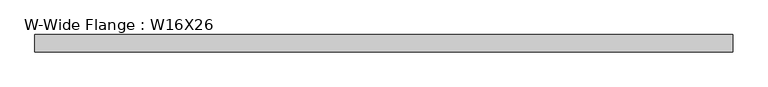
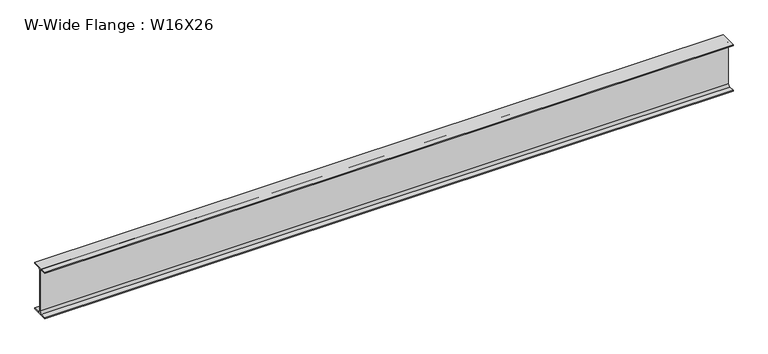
"""IFC4 building model written with IfcOpenShell, lengths in millimetres: beam geometry, W-Wide Flange : W16X26."""

from ifc_helpers import new_model, si_unit, point, frame, frame_2d, origin, place, context, project, spatial, polyline, circle_curve, trimmed, segment, composite_curve, outline, extrude, source, transform, mapped, element, save


def w_wide_flange_w16x26_d081aafe(model_context):
    return source(origin(), model_context, "Body", "SweptSolid", [
        extrude(outline(composite_curve([segment(polyline([(69.85, -190.5496094), (69.85, -199.2808594), (-69.85, -199.2808594), (-69.85, -190.5496094), (-21.43125, -190.5496094)]), True, "CONTINUOUS"), segment(trimmed(circle_curve(frame_2d((-21.43125, -172.2933594)), 18.25625), [point((-21.43125, -190.5496094))], [point((-3.175, -172.2933594))], True, "CARTESIAN"), True, "CONTINUOUS"), segment(polyline([(-3.175, -172.2933594), (-3.175, 172.2933594)]), True, "CONTINUOUS"), segment(trimmed(circle_curve(frame_2d((-21.43125, 172.2933594)), 18.25625), [point((-3.175, 172.2933594))], [point((-21.43125, 190.5496094))], True, "CARTESIAN"), True, "CONTINUOUS"), segment(polyline([(-21.43125, 190.5496094), (-69.85, 190.5496094), (-69.85, 199.2808594), (69.85, 199.2808594), (69.85, 190.5496094), (21.43125, 190.5496094)]), True, "CONTINUOUS"), segment(trimmed(circle_curve(frame_2d((21.43125, 172.2933594)), 18.25625), [point((21.43125, 190.5496094))], [point((3.175, 172.2933594))], True, "CARTESIAN"), True, "CONTINUOUS"), segment(polyline([(3.175, 172.2933594), (3.175, -172.2933594)]), True, "CONTINUOUS"), segment(trimmed(circle_curve(frame_2d((21.43125, -172.2933594)), 18.25625), [point((3.175, -172.2933594))], [point((21.43125, -190.5496094))], True, "CARTESIAN"), True, "CONTINUOUS"), segment(polyline([(21.43125, -190.5496094), (69.85, -190.5496094)]), True, "CONTINUOUS")], self_intersect=False)), frame((-2746.1104167, 0.0, 0.0), z_axis=(1.0, 0.0, 0.0), x_axis=(0.0, 1.0, 0.0)), (0.0, 0.0, 1.0), 5562.6),
    ])


if __name__ == "__main__":
    model = new_model("IFC4")
    model_context = context("Model", 3, world=origin())
    ifc_project = project(units=[si_unit("LENGTHUNIT", "METRE", prefix="MILLI")], contexts=[model_context])
    site = spatial("IfcSite", under=ifc_project)
    building = spatial("IfcBuilding", under=site)
    placement = place(None, origin())
    w_wide_flange_w16x26_shape = w_wide_flange_w16x26_d081aafe(model_context)
    element("IfcBeam", 1, ObjectType="W-Wide Flange : W16X26", at=placement, inside=building, context=model_context, shape_type="MappedRepresentation", body=[
        mapped(w_wide_flange_w16x26_shape, transform((0.0, 0.0, 0.0), x_axis=(1.0, 0.0, 0.0), y_axis=(0.0, 1.0, 0.0), z_axis=(0.0, 0.0, 1.0))),
    ])
    save(model, "model.ifc")
